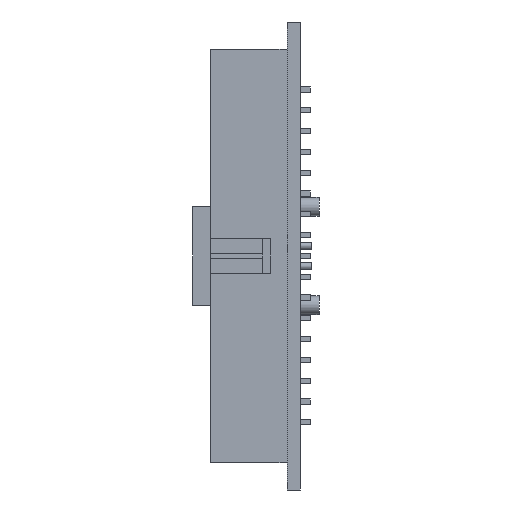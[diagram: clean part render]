
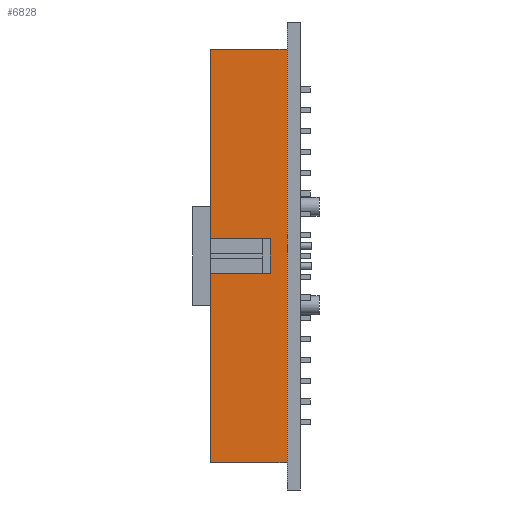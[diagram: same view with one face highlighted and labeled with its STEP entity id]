
A CAD part, left-side view. The second image highlights one B-rep face of the part: STEP entity #6828.
In plain terms, the highlighted planar face has unit normal (-1, 0, 0).
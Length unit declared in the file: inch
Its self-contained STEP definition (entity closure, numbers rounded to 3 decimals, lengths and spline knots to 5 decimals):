
#815=DIRECTION('',(0.,0.,-1.));
#816=VECTOR('',#815,1.99);
#817=CARTESIAN_POINT('',(0.62925,0.063,0.995));
#818=LINE('',#817,#816);
#1155=DIRECTION('',(0.,-1.,0.));
#1156=VECTOR('',#1155,0.37);
#1157=CARTESIAN_POINT('',(0.62925,0.433,-0.995));
#1158=LINE('',#1157,#1156);
#1167=DIRECTION('',(0.,-1.,0.));
#1168=VECTOR('',#1167,0.29);
#1169=CARTESIAN_POINT('',(0.62925,0.433,-0.0825));
#1170=LINE('',#1169,#1168);
#1171=DIRECTION('',(0.,0.,1.));
#1172=VECTOR('',#1171,0.165);
#1173=CARTESIAN_POINT('',(0.62925,0.143,-0.0825));
#1174=LINE('',#1173,#1172);
#1175=DIRECTION('',(0.,-1.,0.));
#1176=VECTOR('',#1175,0.29);
#1177=CARTESIAN_POINT('',(0.62925,0.433,0.0825));
#1178=LINE('',#1177,#1176);
#1179=DIRECTION('',(0.,-1.,0.));
#1180=VECTOR('',#1179,0.37);
#1181=CARTESIAN_POINT('',(0.62925,0.433,0.995));
#1182=LINE('',#1181,#1180);
#1211=DIRECTION('',(0.,0.,-1.));
#1212=VECTOR('',#1211,0.9125);
#1213=CARTESIAN_POINT('',(0.62925,0.433,-0.0825));
#1214=LINE('',#1213,#1212);
#1227=DIRECTION('',(0.,0.,-1.));
#1228=VECTOR('',#1227,0.9125);
#1229=CARTESIAN_POINT('',(0.62925,0.433,0.995));
#1230=LINE('',#1229,#1228);
#4477=CARTESIAN_POINT('',(0.62925,0.433,-0.995));
#4479=VERTEX_POINT('',#4477);
#4483=CARTESIAN_POINT('',(0.62925,0.433,0.995));
#4484=VERTEX_POINT('',#4483);
#4497=CARTESIAN_POINT('',(0.62925,0.433,0.0825));
#4499=VERTEX_POINT('',#4497);
#4501=CARTESIAN_POINT('',(0.62925,0.433,-0.0825));
#4503=VERTEX_POINT('',#4501);
#4509=CARTESIAN_POINT('',(0.62925,0.143,0.0825));
#4510=VERTEX_POINT('',#4509);
#4511=CARTESIAN_POINT('',(0.62925,0.143,-0.0825));
#4512=VERTEX_POINT('',#4511);
#5601=CARTESIAN_POINT('',(0.62925,0.063,-0.995));
#5603=VERTEX_POINT('',#5601);
#5607=CARTESIAN_POINT('',(0.62925,0.063,0.995));
#5608=VERTEX_POINT('',#5607);
#6808=CARTESIAN_POINT('',(0.62925,0.433,0.995));
#6809=DIRECTION('',(-1.,0.,0.));
#6810=DIRECTION('',(0.,0.,-1.));
#6811=AXIS2_PLACEMENT_3D('',#6808,#6809,#6810);
#6812=PLANE('',#6811);
#6813=ORIENTED_EDGE('',*,*,#6149,.T.);
#6814=ORIENTED_EDGE('',*,*,#6775,.F.);
#6816=ORIENTED_EDGE('',*,*,#6815,.F.);
#6818=ORIENTED_EDGE('',*,*,#6817,.T.);
#6820=ORIENTED_EDGE('',*,*,#6819,.T.);
#6822=ORIENTED_EDGE('',*,*,#6821,.F.);
#6824=ORIENTED_EDGE('',*,*,#6823,.F.);
#6825=ORIENTED_EDGE('',*,*,#6800,.T.);
#6826=EDGE_LOOP('',(#6813,#6814,#6816,#6818,#6820,#6822,#6824,#6825));
#6827=FACE_OUTER_BOUND('',#6826,.F.);
#6828=ADVANCED_FACE('',(#6827),#6812,.T.);
#6149=EDGE_CURVE('',#5608,#5603,#818,.T.);
#6775=EDGE_CURVE('',#4479,#5603,#1158,.T.);
#6800=EDGE_CURVE('',#4484,#5608,#1182,.T.);
#6815=EDGE_CURVE('',#4503,#4479,#1214,.T.);
#6817=EDGE_CURVE('',#4503,#4512,#1170,.T.);
#6819=EDGE_CURVE('',#4512,#4510,#1174,.T.);
#6821=EDGE_CURVE('',#4499,#4510,#1178,.T.);
#6823=EDGE_CURVE('',#4484,#4499,#1230,.T.);
